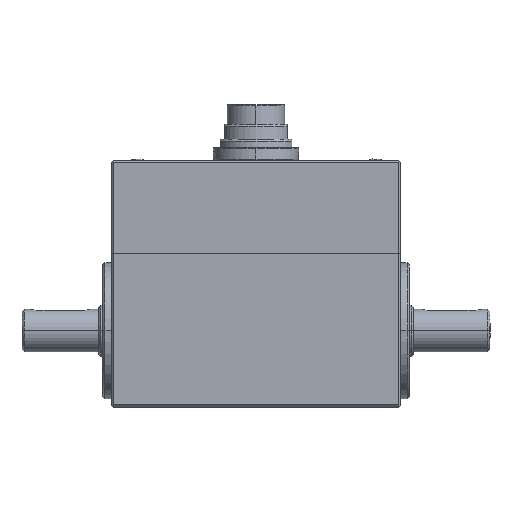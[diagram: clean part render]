
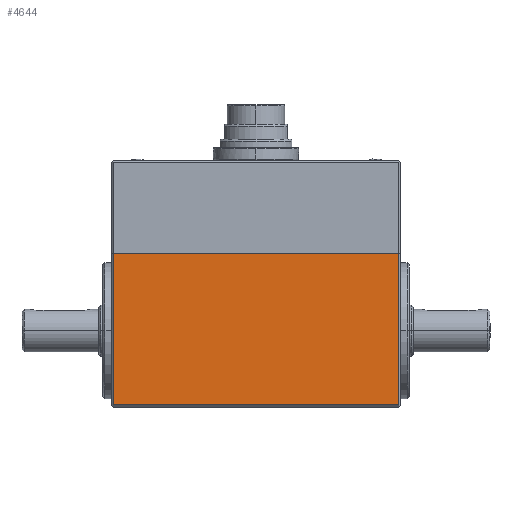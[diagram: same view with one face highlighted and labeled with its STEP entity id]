
A CAD part, top view. The second image highlights one B-rep face of the part: STEP entity #4644.
In plain terms, the highlighted planar face has unit normal (0, 0, -1).
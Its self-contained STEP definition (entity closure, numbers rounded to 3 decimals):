
#1232 = EDGE_CURVE ( 'NONE', #2453, #11768, #9475, .T. ) ;
#1472 = ORIENTED_EDGE ( 'NONE', *, *, #2296, .T. ) ;
#2161 = VECTOR ( 'NONE', #3442, 1000. ) ;
#2296 = EDGE_CURVE ( 'NONE', #11768, #11139, #10077, .T. ) ;
#2436 = CARTESIAN_POINT ( 'NONE',  ( -51.009, -24.695, 18. ) ) ;
#2453 = VERTEX_POINT ( 'NONE', #2436 ) ;
#2609 = VERTEX_POINT ( 'NONE', #5373 ) ;
#2653 = ORIENTED_EDGE ( 'NONE', *, *, #1232, .T. ) ;
#2822 = LINE ( 'NONE', #3918, #9505 ) ;
#2869 = LINE ( 'NONE', #5450, #8428 ) ;
#3442 = DIRECTION ( 'NONE',  ( 1., 0., 0. ) ) ;
#3918 = CARTESIAN_POINT ( 'NONE',  ( 18.491, -24.695, 18. ) ) ;
#4603 = CARTESIAN_POINT ( 'NONE',  ( -51.009, -25.195, 18. ) ) ;
#4644 = ADVANCED_FACE ( 'NONE', ( #10792 ), #9644, .T. ) ;
#4647 = CARTESIAN_POINT ( 'NONE',  ( 15.991, 10.805, 18. ) ) ;
#4704 = CARTESIAN_POINT ( 'NONE',  ( 18.491, -25.195, 18. ) ) ;
#5250 = VECTOR ( 'NONE', #11843, 1000. ) ;
#5373 = CARTESIAN_POINT ( 'NONE',  ( 15.991, -24.695, 18. ) ) ;
#5450 = CARTESIAN_POINT ( 'NONE',  ( 15.991, -25.195, 18. ) ) ;
#6171 = ORIENTED_EDGE ( 'NONE', *, *, #13047, .T. ) ;
#6795 = DIRECTION ( 'NONE',  ( 0., 1., 0. ) ) ;
#6898 = EDGE_LOOP ( 'NONE', ( #1472, #10797, #6171, #2653 ) ) ;
#7849 = CARTESIAN_POINT ( 'NONE',  ( -51.009, 10.805, 18. ) ) ;
#8428 = VECTOR ( 'NONE', #8729, 1000. ) ;
#8729 = DIRECTION ( 'NONE',  ( 0., -1., 0. ) ) ;
#9143 = DIRECTION ( 'NONE',  ( -1., 0., 0. ) ) ;
#9475 = LINE ( 'NONE', #4603, #5250 ) ;
#9505 = VECTOR ( 'NONE', #9143, 1000. ) ;
#9644 = PLANE ( 'NONE',  #13037 ) ;
#9873 = DIRECTION ( 'NONE',  ( 0., 0., -1. ) ) ;
#10077 = LINE ( 'NONE', #12773, #2161 ) ;
#10792 = FACE_OUTER_BOUND ( 'NONE', #6898, .T. ) ;
#10797 = ORIENTED_EDGE ( 'NONE', *, *, #12472, .T. ) ;
#11139 = VERTEX_POINT ( 'NONE', #4647 ) ;
#11768 = VERTEX_POINT ( 'NONE', #7849 ) ;
#11843 = DIRECTION ( 'NONE',  ( 0., 1., 0. ) ) ;
#12472 = EDGE_CURVE ( 'NONE', #11139, #2609, #2869, .T. ) ;
#12773 = CARTESIAN_POINT ( 'NONE',  ( 18.491, 10.805, 18. ) ) ;
#13037 = AXIS2_PLACEMENT_3D ( 'NONE', #4704, #9873, #6795 ) ;
#13047 = EDGE_CURVE ( 'NONE', #2609, #2453, #2822, .T. ) ;
